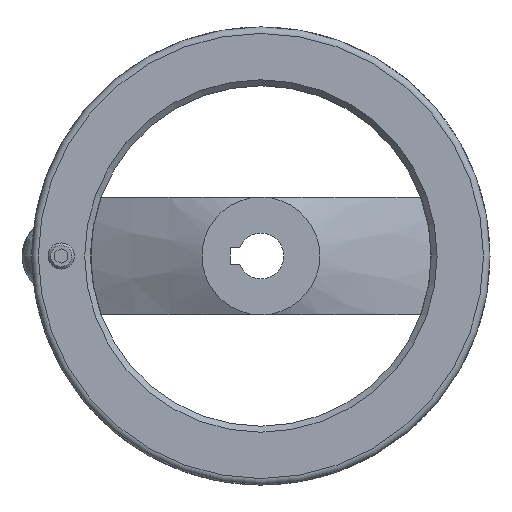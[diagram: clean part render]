
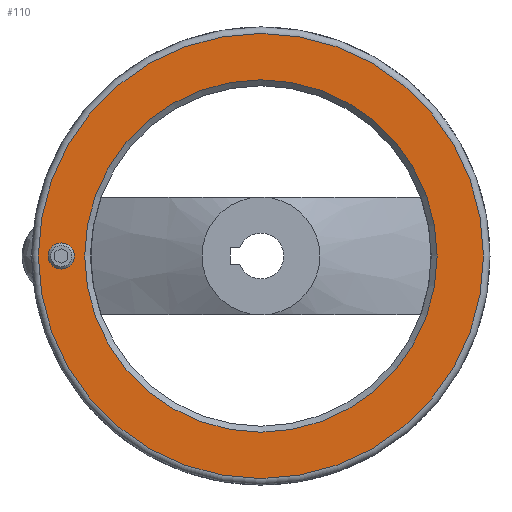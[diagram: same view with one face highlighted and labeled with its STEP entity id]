
A CAD part, left-side view. The second image highlights one B-rep face of the part: STEP entity #110.
In plain terms, the highlighted planar face has unit normal (-1, 0, 0).
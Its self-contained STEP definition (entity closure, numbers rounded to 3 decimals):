
#110 = ADVANCED_FACE( '', ( #207, #208, #209 ), #210, .T. );
#207 = FACE_OUTER_BOUND( '', #348, .T. );
#208 = FACE_BOUND( '', #349, .T. );
#209 = FACE_BOUND( '', #350, .T. );
#210 = PLANE( '', #351 );
#348 = EDGE_LOOP( '', ( #596 ) );
#349 = EDGE_LOOP( '', ( #597 ) );
#350 = EDGE_LOOP( '', ( #598 ) );
#351 = AXIS2_PLACEMENT_3D( '', #599, #600, #601 );
#596 = ORIENTED_EDGE( '', *, *, #709, .T. );
#597 = ORIENTED_EDGE( '', *, *, #675, .T. );
#598 = ORIENTED_EDGE( '', *, *, #710, .F. );
#599 = CARTESIAN_POINT( '', ( 19.5, -53.833, 0. ) );
#600 = DIRECTION( '', ( -1., 0., 0. ) );
#601 = DIRECTION( '', ( 0., 0., 1. ) );
#675 = EDGE_CURVE( '', #796, #796, #797, .T. );
#709 = EDGE_CURVE( '', #848, #848, #849, .T. );
#710 = EDGE_CURVE( '', #850, #850, #851, .T. );
#796 = VERTEX_POINT( '', #1087 );
#797 = CIRCLE( '', #1088, 4. );
#848 = VERTEX_POINT( '', #1153 );
#849 = CIRCLE( '', #1154, 68. );
#850 = VERTEX_POINT( '', #1155 );
#851 = CIRCLE( '', #1156, 53.833 );
#1087 = CARTESIAN_POINT( '', ( 19.5, 61., -4. ) );
#1088 = AXIS2_PLACEMENT_3D( '', #1210, #1211, #1212 );
#1153 = CARTESIAN_POINT( '', ( 19.5, 0., 68. ) );
#1154 = AXIS2_PLACEMENT_3D( '', #1281, #1282, #1283 );
#1155 = CARTESIAN_POINT( '', ( 19.5, 0., 53.833 ) );
#1156 = AXIS2_PLACEMENT_3D( '', #1284, #1285, #1286 );
#1210 = CARTESIAN_POINT( '', ( 19.5, 61., 0. ) );
#1211 = DIRECTION( '', ( 1., 0., 0. ) );
#1212 = DIRECTION( '', ( 0., 0., -1. ) );
#1281 = CARTESIAN_POINT( '', ( 19.5, 0., 0. ) );
#1282 = DIRECTION( '', ( -1., 0., 0. ) );
#1283 = DIRECTION( '', ( 0., 0., 1. ) );
#1284 = CARTESIAN_POINT( '', ( 19.5, 0., 0. ) );
#1285 = DIRECTION( '', ( -1., 0., 0. ) );
#1286 = DIRECTION( '', ( 0., 0., 1. ) );
